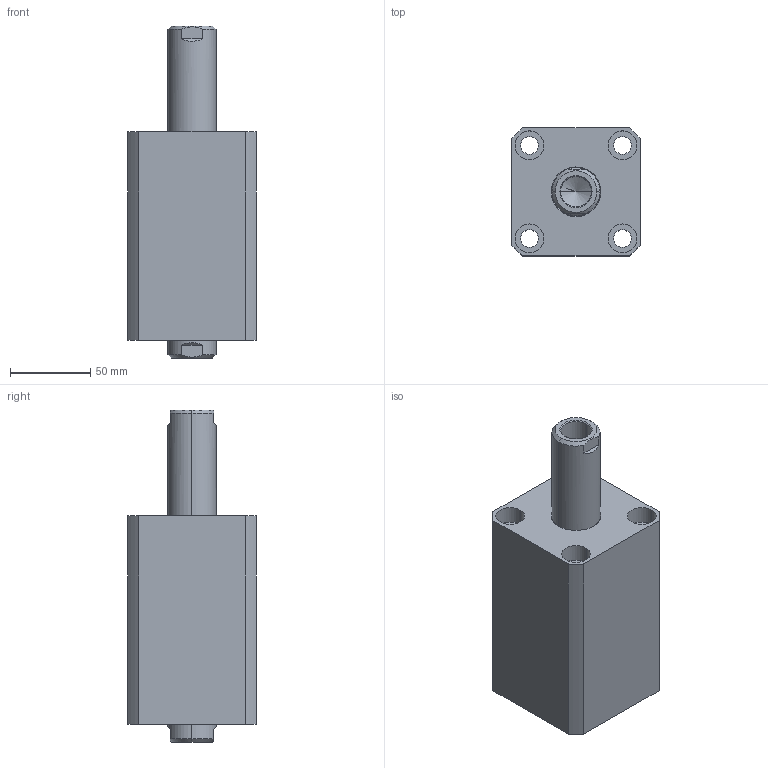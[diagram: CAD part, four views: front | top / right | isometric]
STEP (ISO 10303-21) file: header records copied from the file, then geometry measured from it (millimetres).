
FILE_DESCRIPTION (( 'STEP AP203' ), '1' );
FILE_NAME ('CHTB-SW50-55N.STEP', '2018-05-21T06:23:15', ( '' ), ( '' ), 'SwSTEP 2.0', 'SolidWorks 2015', '' );
FILE_SCHEMA (( 'CONFIG_CONTROL_DESIGN' ));
Length unit declared in the file: millimetre
Products named in the file (4): 活塞杆SW50-55N; ヶ裔; 掛极SW50-55N; CHTB-SW50-55N
Assembly tree (3 placements, depth 2):
  CHTB-SW50-55N
    掛极SW50-55N
    活塞杆SW50-55N
    ヶ裔
Bounding box: 80 x 80 x 207 mm (x, y, z)
Volume: 715905.5 mm3; surface area: 135507.6 mm2
Topology: 3 solids, 3 shells, 225 faces, 528 edges, 331 vertices
Faces by surface type: cylinder 118, plane 46, cone 33, torus 24, bspline 4
Entity records: 9698 total; most frequent: CARTESIAN_POINT 4235, DIRECTION 1104, ORIENTED_EDGE 1040, EDGE_CURVE 520, AXIS2_PLACEMENT_3D 462, VERTEX_POINT 331, EDGE_LOOP 271, CIRCLE 235
